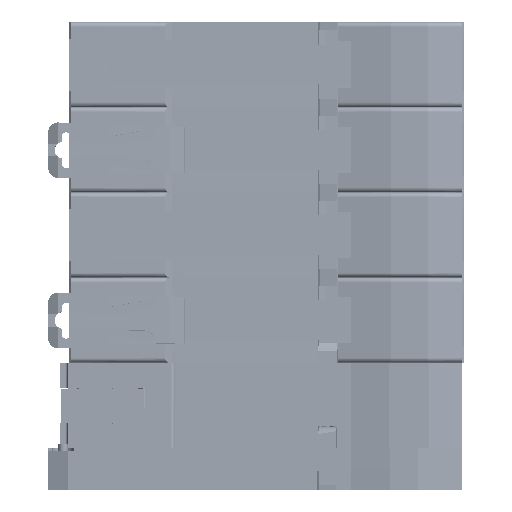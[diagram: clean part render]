
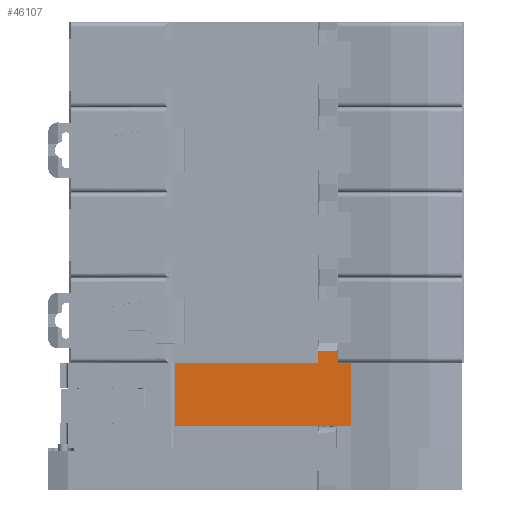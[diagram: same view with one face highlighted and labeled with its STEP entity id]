
A CAD part, front view. The second image highlights one B-rep face of the part: STEP entity #46107.
In plain terms, the highlighted planar face has unit normal (0, -1, 0) as drawn and (0, 1, 0) by its records, which use the part's own axes.
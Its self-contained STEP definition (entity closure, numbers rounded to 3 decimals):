
#1785 = VERTEX_POINT ( 'NONE', #234589 ) ;
#5441 = LINE ( 'NONE', #108283, #286229 ) ;
#12353 = LINE ( 'NONE', #103521, #116718 ) ;
#12778 = CARTESIAN_POINT ( 'NONE',  ( -14.25, 27., -2.5 ) ) ;
#12971 = ORIENTED_EDGE ( 'NONE', *, *, #293368, .T. ) ;
#13938 = VERTEX_POINT ( 'NONE', #51479 ) ;
#17002 = VERTEX_POINT ( 'NONE', #260551 ) ;
#17103 = DIRECTION ( 'NONE',  ( 0., 0., -1. ) ) ;
#19282 = DIRECTION ( 'NONE',  ( 0., 0., 1. ) ) ;
#20254 = VERTEX_POINT ( 'NONE', #124776 ) ;
#20265 = EDGE_CURVE ( 'NONE', #175834, #1785, #210420, .T. ) ;
#25089 = VECTOR ( 'NONE', #75072, 1000. ) ;
#28887 = EDGE_CURVE ( 'NONE', #244250, #175834, #219709, .T. ) ;
#33649 = CARTESIAN_POINT ( 'NONE',  ( 22., 27., 8.9 ) ) ;
#43340 = CARTESIAN_POINT ( 'NONE',  ( -14.25, 27., 8.9 ) ) ;
#44591 = ORIENTED_EDGE ( 'NONE', *, *, #137828, .T. ) ;
#46107 = ADVANCED_FACE ( 'NONE', ( #119421 ), #250843, .T. ) ;
#50669 = ORIENTED_EDGE ( 'NONE', *, *, #220804, .T. ) ;
#51479 = CARTESIAN_POINT ( 'NONE',  ( 19.201, 27., 0. ) ) ;
#53872 = LINE ( 'NONE', #108775, #208701 ) ;
#55795 = CARTESIAN_POINT ( 'NONE',  ( -14.25, 27., 13.1 ) ) ;
#60205 = CARTESIAN_POINT ( 'NONE',  ( -14.25, 27., 0. ) ) ;
#75072 = DIRECTION ( 'NONE',  ( -1., 0., 0. ) ) ;
#75716 = EDGE_CURVE ( 'NONE', #274874, #20254, #243250, .T. ) ;
#79265 = ORIENTED_EDGE ( 'NONE', *, *, #20265, .T. ) ;
#86106 = AXIS2_PLACEMENT_3D ( 'NONE', #295048, #157243, #19282 ) ;
#86291 = VECTOR ( 'NONE', #135319, 1000. ) ;
#94688 = VERTEX_POINT ( 'NONE', #108612 ) ;
#103406 = EDGE_CURVE ( 'NONE', #20254, #17002, #12353, .T. ) ;
#103521 = CARTESIAN_POINT ( 'NONE',  ( 15.138, 27., 0. ) ) ;
#104692 = ORIENTED_EDGE ( 'NONE', *, *, #163307, .T. ) ;
#108283 = CARTESIAN_POINT ( 'NONE',  ( 22., 27., 0. ) ) ;
#108612 = CARTESIAN_POINT ( 'NONE',  ( 22., 27., 13.1 ) ) ;
#108775 = CARTESIAN_POINT ( 'NONE',  ( 22., 27., 0. ) ) ;
#109965 = CARTESIAN_POINT ( 'NONE',  ( 19.201, 27., 0. ) ) ;
#111215 = EDGE_CURVE ( 'NONE', #94688, #269556, #5441, .T. ) ;
#114555 = EDGE_CURVE ( 'NONE', #13938, #274874, #212440, .T. ) ;
#115252 = ORIENTED_EDGE ( 'NONE', *, *, #103406, .T. ) ;
#116718 = VECTOR ( 'NONE', #264590, 1000. ) ;
#119421 = FACE_OUTER_BOUND ( 'NONE', #162875, .T. ) ;
#124776 = CARTESIAN_POINT ( 'NONE',  ( 15.138, 27., -2.5 ) ) ;
#134740 = CARTESIAN_POINT ( 'NONE',  ( 22., 27., 0. ) ) ;
#135319 = DIRECTION ( 'NONE',  ( -1., 0., 0. ) ) ;
#137828 = EDGE_CURVE ( 'NONE', #269556, #184605, #53872, .T. ) ;
#141562 = CARTESIAN_POINT ( 'NONE',  ( 6.996, 27., 0. ) ) ;
#145322 = ORIENTED_EDGE ( 'NONE', *, *, #75716, .T. ) ;
#147525 = LINE ( 'NONE', #160453, #86291 ) ;
#147654 = LINE ( 'NONE', #141562, #25089 ) ;
#148140 = CARTESIAN_POINT ( 'NONE',  ( 19.201, 27., -2.5 ) ) ;
#150974 = ORIENTED_EDGE ( 'NONE', *, *, #111215, .T. ) ;
#157243 = DIRECTION ( 'NONE',  ( 0., 1., 0. ) ) ;
#160453 = CARTESIAN_POINT ( 'NONE',  ( 6.996, 27., 0. ) ) ;
#162875 = EDGE_LOOP ( 'NONE', ( #12971, #277687, #145322, #115252, #50669, #280851, #79265, #104692, #150974, #44591 ) ) ;
#163307 = EDGE_CURVE ( 'NONE', #1785, #94688, #241523, .T. ) ;
#171065 = CARTESIAN_POINT ( 'NONE',  ( -14.25, 27., 0. ) ) ;
#175834 = VERTEX_POINT ( 'NONE', #43340 ) ;
#178229 = VECTOR ( 'NONE', #244354, 1000. ) ;
#184605 = VERTEX_POINT ( 'NONE', #134740 ) ;
#187377 = VECTOR ( 'NONE', #288702, 1000. ) ;
#190896 = DIRECTION ( 'NONE',  ( 1., 0., 0. ) ) ;
#199049 = DIRECTION ( 'NONE',  ( 0., 0., -1. ) ) ;
#208701 = VECTOR ( 'NONE', #17103, 1000. ) ;
#209231 = VECTOR ( 'NONE', #190896, 1000. ) ;
#210420 = LINE ( 'NONE', #171065, #289474 ) ;
#212440 = LINE ( 'NONE', #109965, #266404 ) ;
#219709 = LINE ( 'NONE', #60205, #187377 ) ;
#220804 = EDGE_CURVE ( 'NONE', #17002, #244250, #147654, .T. ) ;
#226739 = DIRECTION ( 'NONE',  ( 0., 0., -1. ) ) ;
#234589 = CARTESIAN_POINT ( 'NONE',  ( -14.25, 27., 13.1 ) ) ;
#241523 = LINE ( 'NONE', #55795, #209231 ) ;
#243250 = LINE ( 'NONE', #12778, #178229 ) ;
#244250 = VERTEX_POINT ( 'NONE', #260438 ) ;
#244354 = DIRECTION ( 'NONE',  ( -1., 0., 0. ) ) ;
#250843 = PLANE ( 'NONE',  #86106 ) ;
#260438 = CARTESIAN_POINT ( 'NONE',  ( -14.25, 27., 0. ) ) ;
#260551 = CARTESIAN_POINT ( 'NONE',  ( 15.138, 27., 0. ) ) ;
#264590 = DIRECTION ( 'NONE',  ( 0., 0., 1. ) ) ;
#266404 = VECTOR ( 'NONE', #226739, 1000. ) ;
#269556 = VERTEX_POINT ( 'NONE', #33649 ) ;
#274874 = VERTEX_POINT ( 'NONE', #148140 ) ;
#277687 = ORIENTED_EDGE ( 'NONE', *, *, #114555, .T. ) ;
#280851 = ORIENTED_EDGE ( 'NONE', *, *, #28887, .T. ) ;
#286229 = VECTOR ( 'NONE', #199049, 1000. ) ;
#287766 = DIRECTION ( 'NONE',  ( 0., 0., 1. ) ) ;
#288702 = DIRECTION ( 'NONE',  ( 0., 0., 1. ) ) ;
#289474 = VECTOR ( 'NONE', #287766, 1000. ) ;
#293368 = EDGE_CURVE ( 'NONE', #184605, #13938, #147525, .T. ) ;
#295048 = CARTESIAN_POINT ( 'NONE',  ( -14.25, 27., 0. ) ) ;
